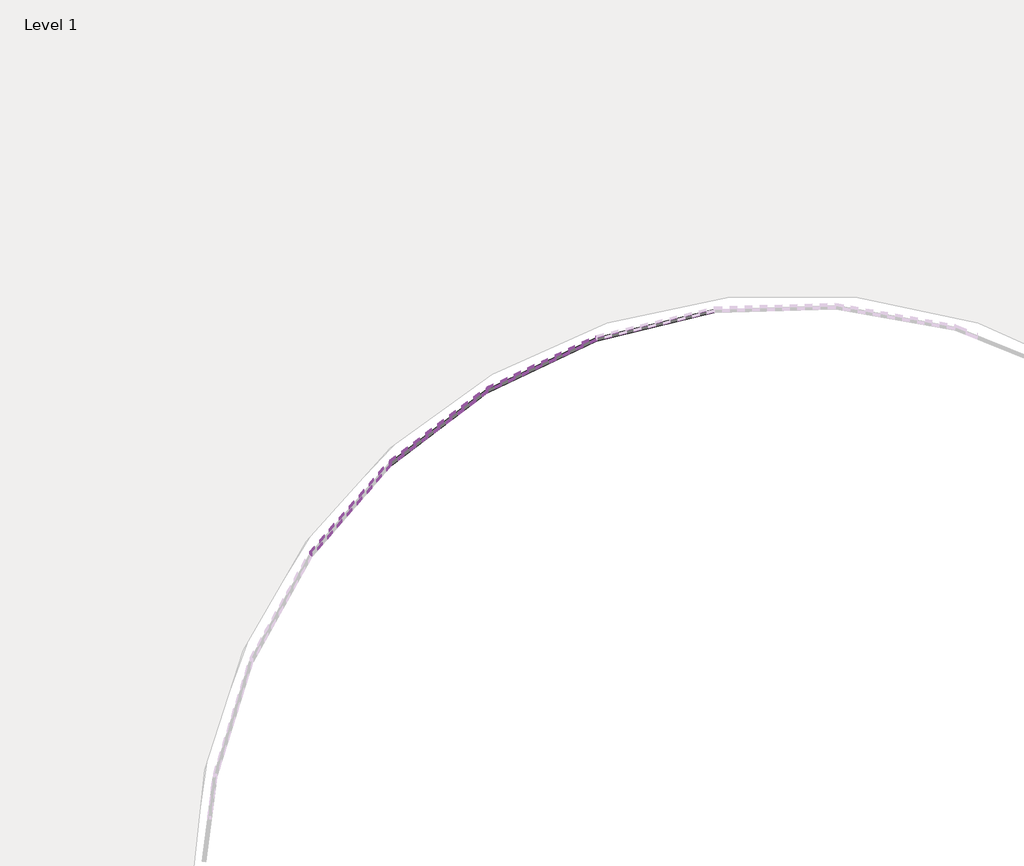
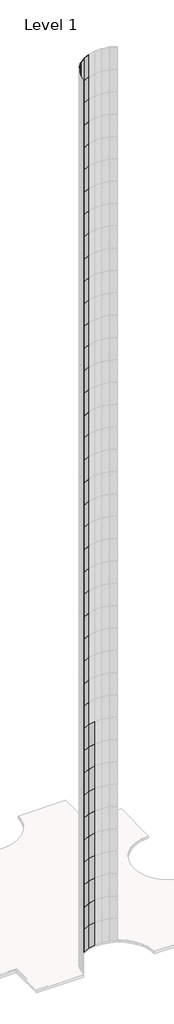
# One storey, part 7 of 19: 129 plates.
"""IFC4 building model written with IfcOpenShell, lengths in millimetres."""

from ifc_helpers import new_model, si_unit, origin, place, context, project, spatial, transform, mapped, element, save
from components import system_panel_glazed_d77d1ebf

model = new_model("IFC4")

# Units and contexts
model_context = context("Model", 3, world=origin())
ifc_project = project(units=[si_unit("LENGTHUNIT", "METRE", prefix="MILLI")], contexts=[model_context])

# Site, building, storey
site = spatial("IfcSite", under=ifc_project)
building = spatial("IfcBuilding", under=site)
storey = spatial("IfcBuildingStorey", under=building, Name="Level 1", Elevation=0.0)

# Plates
placement = place(None, origin())
system_panel_glazed_shape = system_panel_glazed_d77d1ebf(model_context)
element("IfcPlate", 1, ObjectType="System Panel : Glazed", at=placement, inside=storey, context=model_context, shape_type="MappedRepresentation", body=[
    mapped(system_panel_glazed_shape, transform((2482.9364739, -17126.4039912, 0.0), x_axis=(-0.9722724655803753, -0.23385091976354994, 0.0), y_axis=(0.23385091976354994, -0.9722724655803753, 0.0), z_axis=(0.0, 0.0, 1.0))),
])
element("IfcPlate", 2, ObjectType="System Panel : Glazed", at=placement, inside=storey, context=model_context, shape_type="MappedRepresentation", body=[
    mapped(system_panel_glazed_shape, transform((1625.145029, -17428.8737158, 0.0), x_axis=(-0.9039117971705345, -0.4277189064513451, 0.0), y_axis=(0.4277189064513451, -0.9039117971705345, 0.0), z_axis=(0.0, 0.0, 1.0))),
])
element("IfcPlate", 3, ObjectType="System Panel : Glazed", at=placement, inside=storey, context=model_context, shape_type="MappedRepresentation", body=[
    mapped(system_panel_glazed_shape, transform((847.326469, -17900.3526496, 0.0), x_axis=(-0.7973536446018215, -0.6035123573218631, 0.0), y_axis=(0.6035123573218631, -0.7973536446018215, 0.0), z_axis=(0.0, 0.0, 1.0))),
])
element("IfcPlate", 4, ObjectType="System Panel : Glazed", at=placement, inside=storey, context=model_context, shape_type="MappedRepresentation", body=[
    mapped(system_panel_glazed_shape, transform((2482.9364739, -17126.4039912, 3048.0), x_axis=(-0.9722724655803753, -0.23385091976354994, 0.0), y_axis=(0.23385091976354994, -0.9722724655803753, 0.0), z_axis=(0.0, 0.0, 1.0))),
])
element("IfcPlate", 5, ObjectType="System Panel : Glazed", at=placement, inside=storey, context=model_context, shape_type="MappedRepresentation", body=[
    mapped(system_panel_glazed_shape, transform((1625.145029, -17428.8737158, 3048.0), x_axis=(-0.9039117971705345, -0.4277189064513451, 0.0), y_axis=(0.4277189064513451, -0.9039117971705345, 0.0), z_axis=(0.0, 0.0, 1.0))),
])
element("IfcPlate", 6, ObjectType="System Panel : Glazed", at=placement, inside=storey, context=model_context, shape_type="MappedRepresentation", body=[
    mapped(system_panel_glazed_shape, transform((847.326469, -17900.3526496, 3048.0), x_axis=(-0.7973536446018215, -0.6035123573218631, 0.0), y_axis=(0.6035123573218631, -0.7973536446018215, 0.0), z_axis=(0.0, 0.0, 1.0))),
])
element("IfcPlate", 7, ObjectType="System Panel : Glazed", at=placement, inside=storey, context=model_context, shape_type="MappedRepresentation", body=[
    mapped(system_panel_glazed_shape, transform((182.349833, -18520.9170466, 3048.0), x_axis=(-0.6571009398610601, -0.7538025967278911, 0.0), y_axis=(0.7538025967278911, -0.6571009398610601, 0.0), z_axis=(0.0, 0.0, 1.0))),
])
element("IfcPlate", 8, ObjectType="System Panel : Glazed", at=placement, inside=storey, context=model_context, shape_type="MappedRepresentation", body=[
    mapped(system_panel_glazed_shape, transform((2482.9364739, -17126.4039912, 6096.0), x_axis=(-0.9722724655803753, -0.23385091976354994, 0.0), y_axis=(0.23385091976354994, -0.9722724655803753, 0.0), z_axis=(0.0, 0.0, 1.0))),
])
element("IfcPlate", 9, ObjectType="System Panel : Glazed", at=placement, inside=storey, context=model_context, shape_type="MappedRepresentation", body=[
    mapped(system_panel_glazed_shape, transform((1625.145029, -17428.8737158, 6096.0), x_axis=(-0.9039117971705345, -0.4277189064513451, 0.0), y_axis=(0.4277189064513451, -0.9039117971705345, 0.0), z_axis=(0.0, 0.0, 1.0))),
])
element("IfcPlate", 10, ObjectType="System Panel : Glazed", at=placement, inside=storey, context=model_context, shape_type="MappedRepresentation", body=[
    mapped(system_panel_glazed_shape, transform((847.326469, -17900.3526496, 6096.0), x_axis=(-0.7973536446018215, -0.6035123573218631, 0.0), y_axis=(0.6035123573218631, -0.7973536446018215, 0.0), z_axis=(0.0, 0.0, 1.0))),
])
element("IfcPlate", 11, ObjectType="System Panel : Glazed", at=placement, inside=storey, context=model_context, shape_type="MappedRepresentation", body=[
    mapped(system_panel_glazed_shape, transform((182.349833, -18520.9170466, 6096.0), x_axis=(-0.6571009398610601, -0.7538025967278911, 0.0), y_axis=(0.7538025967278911, -0.6571009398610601, 0.0), z_axis=(0.0, 0.0, 1.0))),
])
element("IfcPlate", 12, ObjectType="System Panel : Glazed", at=placement, inside=storey, context=model_context, shape_type="MappedRepresentation", body=[
    mapped(system_panel_glazed_shape, transform((2482.9364739, -17126.4039912, 9144.0), x_axis=(-0.9722724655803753, -0.23385091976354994, 0.0), y_axis=(0.23385091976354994, -0.9722724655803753, 0.0), z_axis=(0.0, 0.0, 1.0))),
])
element("IfcPlate", 13, ObjectType="System Panel : Glazed", at=placement, inside=storey, context=model_context, shape_type="MappedRepresentation", body=[
    mapped(system_panel_glazed_shape, transform((1625.145029, -17428.8737158, 9144.0), x_axis=(-0.9039117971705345, -0.4277189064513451, 0.0), y_axis=(0.4277189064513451, -0.9039117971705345, 0.0), z_axis=(0.0, 0.0, 1.0))),
])
element("IfcPlate", 14, ObjectType="System Panel : Glazed", at=placement, inside=storey, context=model_context, shape_type="MappedRepresentation", body=[
    mapped(system_panel_glazed_shape, transform((847.326469, -17900.3526496, 9144.0), x_axis=(-0.7973536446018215, -0.6035123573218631, 0.0), y_axis=(0.6035123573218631, -0.7973536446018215, 0.0), z_axis=(0.0, 0.0, 1.0))),
])
element("IfcPlate", 15, ObjectType="System Panel : Glazed", at=placement, inside=storey, context=model_context, shape_type="MappedRepresentation", body=[
    mapped(system_panel_glazed_shape, transform((182.349833, -18520.9170466, 9144.0), x_axis=(-0.6571009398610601, -0.7538025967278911, 0.0), y_axis=(0.7538025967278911, -0.6571009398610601, 0.0), z_axis=(0.0, 0.0, 1.0))),
])
element("IfcPlate", 16, ObjectType="System Panel : Glazed", at=placement, inside=storey, context=model_context, shape_type="MappedRepresentation", body=[
    mapped(system_panel_glazed_shape, transform((2482.9364739, -17126.4039912, 12192.0), x_axis=(-0.9722724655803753, -0.23385091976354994, 0.0), y_axis=(0.23385091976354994, -0.9722724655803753, 0.0), z_axis=(0.0, 0.0, 1.0))),
])
element("IfcPlate", 17, ObjectType="System Panel : Glazed", at=placement, inside=storey, context=model_context, shape_type="MappedRepresentation", body=[
    mapped(system_panel_glazed_shape, transform((1625.145029, -17428.8737158, 12192.0), x_axis=(-0.9039117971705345, -0.4277189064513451, 0.0), y_axis=(0.4277189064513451, -0.9039117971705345, 0.0), z_axis=(0.0, 0.0, 1.0))),
])
element("IfcPlate", 18, ObjectType="System Panel : Glazed", at=placement, inside=storey, context=model_context, shape_type="MappedRepresentation", body=[
    mapped(system_panel_glazed_shape, transform((847.326469, -17900.3526496, 12192.0), x_axis=(-0.7973536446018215, -0.6035123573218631, 0.0), y_axis=(0.6035123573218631, -0.7973536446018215, 0.0), z_axis=(0.0, 0.0, 1.0))),
])
element("IfcPlate", 19, ObjectType="System Panel : Glazed", at=placement, inside=storey, context=model_context, shape_type="MappedRepresentation", body=[
    mapped(system_panel_glazed_shape, transform((182.349833, -18520.9170466, 12192.0), x_axis=(-0.6571009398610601, -0.7538025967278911, 0.0), y_axis=(0.7538025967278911, -0.6571009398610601, 0.0), z_axis=(0.0, 0.0, 1.0))),
])
element("IfcPlate", 20, ObjectType="System Panel : Glazed", at=placement, inside=storey, context=model_context, shape_type="MappedRepresentation", body=[
    mapped(system_panel_glazed_shape, transform((2482.9364739, -17126.4039912, 15240.0), x_axis=(-0.9722724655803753, -0.23385091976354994, 0.0), y_axis=(0.23385091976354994, -0.9722724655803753, 0.0), z_axis=(0.0, 0.0, 1.0))),
])
element("IfcPlate", 21, ObjectType="System Panel : Glazed", at=placement, inside=storey, context=model_context, shape_type="MappedRepresentation", body=[
    mapped(system_panel_glazed_shape, transform((1625.145029, -17428.8737158, 15240.0), x_axis=(-0.9039117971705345, -0.4277189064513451, 0.0), y_axis=(0.4277189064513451, -0.9039117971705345, 0.0), z_axis=(0.0, 0.0, 1.0))),
])
element("IfcPlate", 22, ObjectType="System Panel : Glazed", at=placement, inside=storey, context=model_context, shape_type="MappedRepresentation", body=[
    mapped(system_panel_glazed_shape, transform((847.326469, -17900.3526496, 15240.0), x_axis=(-0.7973536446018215, -0.6035123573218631, 0.0), y_axis=(0.6035123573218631, -0.7973536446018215, 0.0), z_axis=(0.0, 0.0, 1.0))),
])
element("IfcPlate", 23, ObjectType="System Panel : Glazed", at=placement, inside=storey, context=model_context, shape_type="MappedRepresentation", body=[
    mapped(system_panel_glazed_shape, transform((182.349833, -18520.9170466, 15240.0), x_axis=(-0.6571009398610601, -0.7538025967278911, 0.0), y_axis=(0.7538025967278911, -0.6571009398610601, 0.0), z_axis=(0.0, 0.0, 1.0))),
])
element("IfcPlate", 24, ObjectType="System Panel : Glazed", at=placement, inside=storey, context=model_context, shape_type="MappedRepresentation", body=[
    mapped(system_panel_glazed_shape, transform((2482.9364739, -17126.4039912, 18288.0), x_axis=(-0.9722724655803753, -0.23385091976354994, 0.0), y_axis=(0.23385091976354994, -0.9722724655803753, 0.0), z_axis=(0.0, 0.0, 1.0))),
])
element("IfcPlate", 25, ObjectType="System Panel : Glazed", at=placement, inside=storey, context=model_context, shape_type="MappedRepresentation", body=[
    mapped(system_panel_glazed_shape, transform((1625.145029, -17428.8737158, 18288.0), x_axis=(-0.9039117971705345, -0.4277189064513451, 0.0), y_axis=(0.4277189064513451, -0.9039117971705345, 0.0), z_axis=(0.0, 0.0, 1.0))),
])
element("IfcPlate", 26, ObjectType="System Panel : Glazed", at=placement, inside=storey, context=model_context, shape_type="MappedRepresentation", body=[
    mapped(system_panel_glazed_shape, transform((847.326469, -17900.3526496, 18288.0), x_axis=(-0.7973536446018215, -0.6035123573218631, 0.0), y_axis=(0.6035123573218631, -0.7973536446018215, 0.0), z_axis=(0.0, 0.0, 1.0))),
])
element("IfcPlate", 27, ObjectType="System Panel : Glazed", at=placement, inside=storey, context=model_context, shape_type="MappedRepresentation", body=[
    mapped(system_panel_glazed_shape, transform((182.349833, -18520.9170466, 18288.0), x_axis=(-0.65710093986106, -0.7538025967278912, 0.0), y_axis=(0.7538025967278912, -0.65710093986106, 0.0), z_axis=(0.0, 0.0, 1.0))),
])
element("IfcPlate", 28, ObjectType="System Panel : Glazed", at=placement, inside=storey, context=model_context, shape_type="MappedRepresentation", body=[
    mapped(system_panel_glazed_shape, transform((2482.9364739, -17126.4039912, 21336.0), x_axis=(-0.9722724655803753, -0.23385091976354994, 0.0), y_axis=(0.23385091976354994, -0.9722724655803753, 0.0), z_axis=(0.0, 0.0, 1.0))),
])
element("IfcPlate", 29, ObjectType="System Panel : Glazed", at=placement, inside=storey, context=model_context, shape_type="MappedRepresentation", body=[
    mapped(system_panel_glazed_shape, transform((1625.145029, -17428.8737158, 21336.0), x_axis=(-0.9039117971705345, -0.4277189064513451, 0.0), y_axis=(0.4277189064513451, -0.9039117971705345, 0.0), z_axis=(0.0, 0.0, 1.0))),
])
element("IfcPlate", 30, ObjectType="System Panel : Glazed", at=placement, inside=storey, context=model_context, shape_type="MappedRepresentation", body=[
    mapped(system_panel_glazed_shape, transform((847.326469, -17900.3526496, 21336.0), x_axis=(-0.7973536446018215, -0.6035123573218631, 0.0), y_axis=(0.6035123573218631, -0.7973536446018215, 0.0), z_axis=(0.0, 0.0, 1.0))),
])
element("IfcPlate", 31, ObjectType="System Panel : Glazed", at=placement, inside=storey, context=model_context, shape_type="MappedRepresentation", body=[
    mapped(system_panel_glazed_shape, transform((182.349833, -18520.9170466, 21336.0), x_axis=(-0.6571009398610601, -0.7538025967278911, 0.0), y_axis=(0.7538025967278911, -0.6571009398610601, 0.0), z_axis=(0.0, 0.0, 1.0))),
])
element("IfcPlate", 32, ObjectType="System Panel : Glazed", at=placement, inside=storey, context=model_context, shape_type="MappedRepresentation", body=[
    mapped(system_panel_glazed_shape, transform((2482.9364739, -17126.4039912, 24384.0), x_axis=(-0.9722724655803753, -0.23385091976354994, 0.0), y_axis=(0.23385091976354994, -0.9722724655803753, 0.0), z_axis=(0.0, 0.0, 1.0))),
])
element("IfcPlate", 33, ObjectType="System Panel : Glazed", at=placement, inside=storey, context=model_context, shape_type="MappedRepresentation", body=[
    mapped(system_panel_glazed_shape, transform((1625.145029, -17428.8737158, 24384.0), x_axis=(-0.9039117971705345, -0.4277189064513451, 0.0), y_axis=(0.4277189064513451, -0.9039117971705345, 0.0), z_axis=(0.0, 0.0, 1.0))),
])
element("IfcPlate", 34, ObjectType="System Panel : Glazed", at=placement, inside=storey, context=model_context, shape_type="MappedRepresentation", body=[
    mapped(system_panel_glazed_shape, transform((847.326469, -17900.3526496, 24384.0), x_axis=(-0.7973536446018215, -0.6035123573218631, 0.0), y_axis=(0.6035123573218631, -0.7973536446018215, 0.0), z_axis=(0.0, 0.0, 1.0))),
])
element("IfcPlate", 35, ObjectType="System Panel : Glazed", at=placement, inside=storey, context=model_context, shape_type="MappedRepresentation", body=[
    mapped(system_panel_glazed_shape, transform((182.349833, -18520.9170466, 24384.0), x_axis=(-0.6571009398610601, -0.7538025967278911, 0.0), y_axis=(0.7538025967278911, -0.6571009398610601, 0.0), z_axis=(0.0, 0.0, 1.0))),
])
element("IfcPlate", 36, ObjectType="System Panel : Glazed", at=placement, inside=storey, context=model_context, shape_type="MappedRepresentation", body=[
    mapped(system_panel_glazed_shape, transform((2482.9364739, -17126.4039912, 27432.0), x_axis=(-0.9722724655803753, -0.23385091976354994, 0.0), y_axis=(0.23385091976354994, -0.9722724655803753, 0.0), z_axis=(0.0, 0.0, 1.0))),
])
element("IfcPlate", 37, ObjectType="System Panel : Glazed", at=placement, inside=storey, context=model_context, shape_type="MappedRepresentation", body=[
    mapped(system_panel_glazed_shape, transform((1625.145029, -17428.8737158, 27432.0), x_axis=(-0.9039117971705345, -0.4277189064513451, 0.0), y_axis=(0.4277189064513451, -0.9039117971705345, 0.0), z_axis=(0.0, 0.0, 1.0))),
])
element("IfcPlate", 38, ObjectType="System Panel : Glazed", at=placement, inside=storey, context=model_context, shape_type="MappedRepresentation", body=[
    mapped(system_panel_glazed_shape, transform((847.326469, -17900.3526496, 27432.0), x_axis=(-0.7973536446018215, -0.6035123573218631, 0.0), y_axis=(0.6035123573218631, -0.7973536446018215, 0.0), z_axis=(0.0, 0.0, 1.0))),
])
element("IfcPlate", 39, ObjectType="System Panel : Glazed", at=placement, inside=storey, context=model_context, shape_type="MappedRepresentation", body=[
    mapped(system_panel_glazed_shape, transform((182.349833, -18520.9170466, 27432.0), x_axis=(-0.6571009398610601, -0.7538025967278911, 0.0), y_axis=(0.7538025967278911, -0.6571009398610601, 0.0), z_axis=(0.0, 0.0, 1.0))),
])
element("IfcPlate", 40, ObjectType="System Panel : Glazed", at=placement, inside=storey, context=model_context, shape_type="MappedRepresentation", body=[
    mapped(system_panel_glazed_shape, transform((1625.145029, -17428.8737158, 30480.0), x_axis=(-0.9039117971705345, -0.4277189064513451, 0.0), y_axis=(0.4277189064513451, -0.9039117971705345, 0.0), z_axis=(0.0, 0.0, 1.0))),
])
element("IfcPlate", 41, ObjectType="System Panel : Glazed", at=placement, inside=storey, context=model_context, shape_type="MappedRepresentation", body=[
    mapped(system_panel_glazed_shape, transform((847.326469, -17900.3526496, 30480.0), x_axis=(-0.7973536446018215, -0.6035123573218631, 0.0), y_axis=(0.6035123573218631, -0.7973536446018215, 0.0), z_axis=(0.0, 0.0, 1.0))),
])
element("IfcPlate", 42, ObjectType="System Panel : Glazed", at=placement, inside=storey, context=model_context, shape_type="MappedRepresentation", body=[
    mapped(system_panel_glazed_shape, transform((182.349833, -18520.9170466, 30480.0), x_axis=(-0.6571009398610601, -0.7538025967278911, 0.0), y_axis=(0.7538025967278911, -0.6571009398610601, 0.0), z_axis=(0.0, 0.0, 1.0))),
])
element("IfcPlate", 43, ObjectType="System Panel : Glazed", at=placement, inside=storey, context=model_context, shape_type="MappedRepresentation", body=[
    mapped(system_panel_glazed_shape, transform((1625.145029, -17428.8737158, 33528.0), x_axis=(-0.9039117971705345, -0.4277189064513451, 0.0), y_axis=(0.4277189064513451, -0.9039117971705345, 0.0), z_axis=(0.0, 0.0, 1.0))),
])
element("IfcPlate", 44, ObjectType="System Panel : Glazed", at=placement, inside=storey, context=model_context, shape_type="MappedRepresentation", body=[
    mapped(system_panel_glazed_shape, transform((847.326469, -17900.3526496, 33528.0), x_axis=(-0.7973536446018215, -0.6035123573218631, 0.0), y_axis=(0.6035123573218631, -0.7973536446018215, 0.0), z_axis=(0.0, 0.0, 1.0))),
])
element("IfcPlate", 45, ObjectType="System Panel : Glazed", at=placement, inside=storey, context=model_context, shape_type="MappedRepresentation", body=[
    mapped(system_panel_glazed_shape, transform((182.349833, -18520.9170466, 33528.0), x_axis=(-0.6571009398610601, -0.7538025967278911, 0.0), y_axis=(0.7538025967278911, -0.6571009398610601, 0.0), z_axis=(0.0, 0.0, 1.0))),
])
element("IfcPlate", 46, ObjectType="System Panel : Glazed", at=placement, inside=storey, context=model_context, shape_type="MappedRepresentation", body=[
    mapped(system_panel_glazed_shape, transform((1625.145029, -17428.8737158, 36576.0), x_axis=(-0.9039117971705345, -0.4277189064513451, 0.0), y_axis=(0.4277189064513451, -0.9039117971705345, 0.0), z_axis=(0.0, 0.0, 1.0))),
])
element("IfcPlate", 47, ObjectType="System Panel : Glazed", at=placement, inside=storey, context=model_context, shape_type="MappedRepresentation", body=[
    mapped(system_panel_glazed_shape, transform((847.326469, -17900.3526496, 36576.0), x_axis=(-0.7973536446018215, -0.6035123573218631, 0.0), y_axis=(0.6035123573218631, -0.7973536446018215, 0.0), z_axis=(0.0, 0.0, 1.0))),
])
element("IfcPlate", 48, ObjectType="System Panel : Glazed", at=placement, inside=storey, context=model_context, shape_type="MappedRepresentation", body=[
    mapped(system_panel_glazed_shape, transform((182.349833, -18520.9170466, 36576.0), x_axis=(-0.6571009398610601, -0.7538025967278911, 0.0), y_axis=(0.7538025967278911, -0.6571009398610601, 0.0), z_axis=(0.0, 0.0, 1.0))),
])
element("IfcPlate", 49, ObjectType="System Panel : Glazed", at=placement, inside=storey, context=model_context, shape_type="MappedRepresentation", body=[
    mapped(system_panel_glazed_shape, transform((1625.145029, -17428.8737158, 39624.0), x_axis=(-0.9039117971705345, -0.4277189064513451, 0.0), y_axis=(0.4277189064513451, -0.9039117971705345, 0.0), z_axis=(0.0, 0.0, 1.0))),
])
element("IfcPlate", 50, ObjectType="System Panel : Glazed", at=placement, inside=storey, context=model_context, shape_type="MappedRepresentation", body=[
    mapped(system_panel_glazed_shape, transform((847.326469, -17900.3526496, 39624.0), x_axis=(-0.7973536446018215, -0.6035123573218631, 0.0), y_axis=(0.6035123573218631, -0.7973536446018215, 0.0), z_axis=(0.0, 0.0, 1.0))),
])
element("IfcPlate", 51, ObjectType="System Panel : Glazed", at=placement, inside=storey, context=model_context, shape_type="MappedRepresentation", body=[
    mapped(system_panel_glazed_shape, transform((182.349833, -18520.9170466, 39624.0), x_axis=(-0.6571009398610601, -0.7538025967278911, 0.0), y_axis=(0.7538025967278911, -0.6571009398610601, 0.0), z_axis=(0.0, 0.0, 1.0))),
])
element("IfcPlate", 52, ObjectType="System Panel : Glazed", at=placement, inside=storey, context=model_context, shape_type="MappedRepresentation", body=[
    mapped(system_panel_glazed_shape, transform((1625.145029, -17428.8737158, 42672.0), x_axis=(-0.9039117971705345, -0.4277189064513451, 0.0), y_axis=(0.4277189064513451, -0.9039117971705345, 0.0), z_axis=(0.0, 0.0, 1.0))),
])
element("IfcPlate", 53, ObjectType="System Panel : Glazed", at=placement, inside=storey, context=model_context, shape_type="MappedRepresentation", body=[
    mapped(system_panel_glazed_shape, transform((847.326469, -17900.3526496, 42672.0), x_axis=(-0.7973536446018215, -0.6035123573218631, 0.0), y_axis=(0.6035123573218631, -0.7973536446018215, 0.0), z_axis=(0.0, 0.0, 1.0))),
])
element("IfcPlate", 54, ObjectType="System Panel : Glazed", at=placement, inside=storey, context=model_context, shape_type="MappedRepresentation", body=[
    mapped(system_panel_glazed_shape, transform((182.349833, -18520.9170466, 42672.0), x_axis=(-0.6571009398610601, -0.7538025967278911, 0.0), y_axis=(0.7538025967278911, -0.6571009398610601, 0.0), z_axis=(0.0, 0.0, 1.0))),
])
element("IfcPlate", 55, ObjectType="System Panel : Glazed", at=placement, inside=storey, context=model_context, shape_type="MappedRepresentation", body=[
    mapped(system_panel_glazed_shape, transform((1625.145029, -17428.8737158, 45720.0), x_axis=(-0.9039117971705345, -0.4277189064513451, 0.0), y_axis=(0.4277189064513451, -0.9039117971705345, 0.0), z_axis=(0.0, 0.0, 1.0))),
])
element("IfcPlate", 56, ObjectType="System Panel : Glazed", at=placement, inside=storey, context=model_context, shape_type="MappedRepresentation", body=[
    mapped(system_panel_glazed_shape, transform((847.326469, -17900.3526496, 45720.0), x_axis=(-0.7973536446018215, -0.6035123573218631, 0.0), y_axis=(0.6035123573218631, -0.7973536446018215, 0.0), z_axis=(0.0, 0.0, 1.0))),
])
element("IfcPlate", 57, ObjectType="System Panel : Glazed", at=placement, inside=storey, context=model_context, shape_type="MappedRepresentation", body=[
    mapped(system_panel_glazed_shape, transform((182.349833, -18520.9170466, 45720.0), x_axis=(-0.6571009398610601, -0.7538025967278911, 0.0), y_axis=(0.7538025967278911, -0.6571009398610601, 0.0), z_axis=(0.0, 0.0, 1.0))),
])
element("IfcPlate", 58, ObjectType="System Panel : Glazed", at=placement, inside=storey, context=model_context, shape_type="MappedRepresentation", body=[
    mapped(system_panel_glazed_shape, transform((1625.145029, -17428.8737158, 48768.0), x_axis=(-0.9039117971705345, -0.4277189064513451, 0.0), y_axis=(0.4277189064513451, -0.9039117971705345, 0.0), z_axis=(0.0, 0.0, 1.0))),
])
element("IfcPlate", 59, ObjectType="System Panel : Glazed", at=placement, inside=storey, context=model_context, shape_type="MappedRepresentation", body=[
    mapped(system_panel_glazed_shape, transform((847.326469, -17900.3526496, 48768.0), x_axis=(-0.7973536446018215, -0.6035123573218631, 0.0), y_axis=(0.6035123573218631, -0.7973536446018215, 0.0), z_axis=(0.0, 0.0, 1.0))),
])
element("IfcPlate", 60, ObjectType="System Panel : Glazed", at=placement, inside=storey, context=model_context, shape_type="MappedRepresentation", body=[
    mapped(system_panel_glazed_shape, transform((182.349833, -18520.9170466, 48768.0), x_axis=(-0.6571009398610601, -0.7538025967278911, 0.0), y_axis=(0.7538025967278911, -0.6571009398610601, 0.0), z_axis=(0.0, 0.0, 1.0))),
])
element("IfcPlate", 61, ObjectType="System Panel : Glazed", at=placement, inside=storey, context=model_context, shape_type="MappedRepresentation", body=[
    mapped(system_panel_glazed_shape, transform((1625.145029, -17428.8737158, 51816.0), x_axis=(-0.9039117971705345, -0.4277189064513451, 0.0), y_axis=(0.4277189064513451, -0.9039117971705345, 0.0), z_axis=(0.0, 0.0, 1.0))),
])
element("IfcPlate", 62, ObjectType="System Panel : Glazed", at=placement, inside=storey, context=model_context, shape_type="MappedRepresentation", body=[
    mapped(system_panel_glazed_shape, transform((847.326469, -17900.3526496, 51816.0), x_axis=(-0.7973536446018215, -0.6035123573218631, 0.0), y_axis=(0.6035123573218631, -0.7973536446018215, 0.0), z_axis=(0.0, 0.0, 1.0))),
])
element("IfcPlate", 63, ObjectType="System Panel : Glazed", at=placement, inside=storey, context=model_context, shape_type="MappedRepresentation", body=[
    mapped(system_panel_glazed_shape, transform((182.349833, -18520.9170466, 51816.0), x_axis=(-0.6571009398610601, -0.7538025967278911, 0.0), y_axis=(0.7538025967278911, -0.6571009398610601, 0.0), z_axis=(0.0, 0.0, 1.0))),
])
element("IfcPlate", 64, ObjectType="System Panel : Glazed", at=placement, inside=storey, context=model_context, shape_type="MappedRepresentation", body=[
    mapped(system_panel_glazed_shape, transform((1625.145029, -17428.8737158, 54864.0), x_axis=(-0.9039117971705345, -0.4277189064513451, 0.0), y_axis=(0.4277189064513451, -0.9039117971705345, 0.0), z_axis=(0.0, 0.0, 1.0))),
])
element("IfcPlate", 65, ObjectType="System Panel : Glazed", at=placement, inside=storey, context=model_context, shape_type="MappedRepresentation", body=[
    mapped(system_panel_glazed_shape, transform((847.326469, -17900.3526496, 54864.0), x_axis=(-0.7973536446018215, -0.6035123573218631, 0.0), y_axis=(0.6035123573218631, -0.7973536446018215, 0.0), z_axis=(0.0, 0.0, 1.0))),
])
element("IfcPlate", 66, ObjectType="System Panel : Glazed", at=placement, inside=storey, context=model_context, shape_type="MappedRepresentation", body=[
    mapped(system_panel_glazed_shape, transform((182.349833, -18520.9170466, 54864.0), x_axis=(-0.6571009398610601, -0.7538025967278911, 0.0), y_axis=(0.7538025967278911, -0.6571009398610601, 0.0), z_axis=(0.0, 0.0, 1.0))),
])
element("IfcPlate", 67, ObjectType="System Panel : Glazed", at=placement, inside=storey, context=model_context, shape_type="MappedRepresentation", body=[
    mapped(system_panel_glazed_shape, transform((1625.145029, -17428.8737158, 57912.0), x_axis=(-0.9039117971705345, -0.4277189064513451, 0.0), y_axis=(0.4277189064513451, -0.9039117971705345, 0.0), z_axis=(0.0, 0.0, 1.0))),
])
element("IfcPlate", 68, ObjectType="System Panel : Glazed", at=placement, inside=storey, context=model_context, shape_type="MappedRepresentation", body=[
    mapped(system_panel_glazed_shape, transform((847.326469, -17900.3526496, 57912.0), x_axis=(-0.7973536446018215, -0.6035123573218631, 0.0), y_axis=(0.6035123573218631, -0.7973536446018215, 0.0), z_axis=(0.0, 0.0, 1.0))),
])
element("IfcPlate", 69, ObjectType="System Panel : Glazed", at=placement, inside=storey, context=model_context, shape_type="MappedRepresentation", body=[
    mapped(system_panel_glazed_shape, transform((182.349833, -18520.9170466, 57912.0), x_axis=(-0.6571009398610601, -0.7538025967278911, 0.0), y_axis=(0.7538025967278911, -0.6571009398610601, 0.0), z_axis=(0.0, 0.0, 1.0))),
])
element("IfcPlate", 70, ObjectType="System Panel : Glazed", at=placement, inside=storey, context=model_context, shape_type="MappedRepresentation", body=[
    mapped(system_panel_glazed_shape, transform((1625.145029, -17428.8737158, 60960.0), x_axis=(-0.9039117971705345, -0.4277189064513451, 0.0), y_axis=(0.4277189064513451, -0.9039117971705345, 0.0), z_axis=(0.0, 0.0, 1.0))),
])
element("IfcPlate", 71, ObjectType="System Panel : Glazed", at=placement, inside=storey, context=model_context, shape_type="MappedRepresentation", body=[
    mapped(system_panel_glazed_shape, transform((847.326469, -17900.3526496, 60960.0), x_axis=(-0.7973536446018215, -0.6035123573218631, 0.0), y_axis=(0.6035123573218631, -0.7973536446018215, 0.0), z_axis=(0.0, 0.0, 1.0))),
])
element("IfcPlate", 72, ObjectType="System Panel : Glazed", at=placement, inside=storey, context=model_context, shape_type="MappedRepresentation", body=[
    mapped(system_panel_glazed_shape, transform((182.349833, -18520.9170466, 60960.0), x_axis=(-0.6571009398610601, -0.7538025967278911, 0.0), y_axis=(0.7538025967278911, -0.6571009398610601, 0.0), z_axis=(0.0, 0.0, 1.0))),
])
element("IfcPlate", 73, ObjectType="System Panel : Glazed", at=placement, inside=storey, context=model_context, shape_type="MappedRepresentation", body=[
    mapped(system_panel_glazed_shape, transform((1625.145029, -17428.8737158, 64008.0), x_axis=(-0.9039117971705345, -0.4277189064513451, 0.0), y_axis=(0.4277189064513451, -0.9039117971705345, 0.0), z_axis=(0.0, 0.0, 1.0))),
])
element("IfcPlate", 74, ObjectType="System Panel : Glazed", at=placement, inside=storey, context=model_context, shape_type="MappedRepresentation", body=[
    mapped(system_panel_glazed_shape, transform((847.326469, -17900.3526496, 64008.0), x_axis=(-0.7973536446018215, -0.6035123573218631, 0.0), y_axis=(0.6035123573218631, -0.7973536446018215, 0.0), z_axis=(0.0, 0.0, 1.0))),
])
element("IfcPlate", 75, ObjectType="System Panel : Glazed", at=placement, inside=storey, context=model_context, shape_type="MappedRepresentation", body=[
    mapped(system_panel_glazed_shape, transform((182.349833, -18520.9170466, 64008.0), x_axis=(-0.6571009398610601, -0.7538025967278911, 0.0), y_axis=(0.7538025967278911, -0.6571009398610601, 0.0), z_axis=(0.0, 0.0, 1.0))),
])
element("IfcPlate", 76, ObjectType="System Panel : Glazed", at=placement, inside=storey, context=model_context, shape_type="MappedRepresentation", body=[
    mapped(system_panel_glazed_shape, transform((1625.145029, -17428.8737158, 67056.0), x_axis=(-0.9039117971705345, -0.4277189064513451, 0.0), y_axis=(0.4277189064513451, -0.9039117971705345, 0.0), z_axis=(0.0, 0.0, 1.0))),
])
element("IfcPlate", 77, ObjectType="System Panel : Glazed", at=placement, inside=storey, context=model_context, shape_type="MappedRepresentation", body=[
    mapped(system_panel_glazed_shape, transform((847.326469, -17900.3526496, 67056.0), x_axis=(-0.7973536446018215, -0.6035123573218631, 0.0), y_axis=(0.6035123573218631, -0.7973536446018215, 0.0), z_axis=(0.0, 0.0, 1.0))),
])
element("IfcPlate", 78, ObjectType="System Panel : Glazed", at=placement, inside=storey, context=model_context, shape_type="MappedRepresentation", body=[
    mapped(system_panel_glazed_shape, transform((182.349833, -18520.9170466, 67056.0), x_axis=(-0.6571009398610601, -0.7538025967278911, 0.0), y_axis=(0.7538025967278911, -0.6571009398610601, 0.0), z_axis=(0.0, 0.0, 1.0))),
])
element("IfcPlate", 79, ObjectType="System Panel : Glazed", at=placement, inside=storey, context=model_context, shape_type="MappedRepresentation", body=[
    mapped(system_panel_glazed_shape, transform((1625.145029, -17428.8737158, 70104.0), x_axis=(-0.9039117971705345, -0.4277189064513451, 0.0), y_axis=(0.4277189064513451, -0.9039117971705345, 0.0), z_axis=(0.0, 0.0, 1.0))),
])
element("IfcPlate", 80, ObjectType="System Panel : Glazed", at=placement, inside=storey, context=model_context, shape_type="MappedRepresentation", body=[
    mapped(system_panel_glazed_shape, transform((847.326469, -17900.3526496, 70104.0), x_axis=(-0.7973536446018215, -0.6035123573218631, 0.0), y_axis=(0.6035123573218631, -0.7973536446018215, 0.0), z_axis=(0.0, 0.0, 1.0))),
])
element("IfcPlate", 81, ObjectType="System Panel : Glazed", at=placement, inside=storey, context=model_context, shape_type="MappedRepresentation", body=[
    mapped(system_panel_glazed_shape, transform((182.349833, -18520.9170466, 70104.0), x_axis=(-0.6571009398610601, -0.7538025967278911, 0.0), y_axis=(0.7538025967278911, -0.6571009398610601, 0.0), z_axis=(0.0, 0.0, 1.0))),
])
element("IfcPlate", 82, ObjectType="System Panel : Glazed", at=placement, inside=storey, context=model_context, shape_type="MappedRepresentation", body=[
    mapped(system_panel_glazed_shape, transform((1625.145029, -17428.8737158, 73152.0), x_axis=(-0.9039117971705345, -0.4277189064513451, 0.0), y_axis=(0.4277189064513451, -0.9039117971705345, 0.0), z_axis=(0.0, 0.0, 1.0))),
])
element("IfcPlate", 83, ObjectType="System Panel : Glazed", at=placement, inside=storey, context=model_context, shape_type="MappedRepresentation", body=[
    mapped(system_panel_glazed_shape, transform((847.326469, -17900.3526496, 73152.0), x_axis=(-0.7973536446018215, -0.6035123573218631, 0.0), y_axis=(0.6035123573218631, -0.7973536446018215, 0.0), z_axis=(0.0, 0.0, 1.0))),
])
element("IfcPlate", 84, ObjectType="System Panel : Glazed", at=placement, inside=storey, context=model_context, shape_type="MappedRepresentation", body=[
    mapped(system_panel_glazed_shape, transform((182.349833, -18520.9170466, 73152.0), x_axis=(-0.6571009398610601, -0.7538025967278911, 0.0), y_axis=(0.7538025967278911, -0.6571009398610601, 0.0), z_axis=(0.0, 0.0, 1.0))),
])
element("IfcPlate", 85, ObjectType="System Panel : Glazed", at=placement, inside=storey, context=model_context, shape_type="MappedRepresentation", body=[
    mapped(system_panel_glazed_shape, transform((1625.145029, -17428.8737158, 76200.0), x_axis=(-0.9039117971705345, -0.4277189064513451, 0.0), y_axis=(0.4277189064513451, -0.9039117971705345, 0.0), z_axis=(0.0, 0.0, 1.0))),
])
element("IfcPlate", 86, ObjectType="System Panel : Glazed", at=placement, inside=storey, context=model_context, shape_type="MappedRepresentation", body=[
    mapped(system_panel_glazed_shape, transform((847.326469, -17900.3526496, 76200.0), x_axis=(-0.7973536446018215, -0.6035123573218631, 0.0), y_axis=(0.6035123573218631, -0.7973536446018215, 0.0), z_axis=(0.0, 0.0, 1.0))),
])
element("IfcPlate", 87, ObjectType="System Panel : Glazed", at=placement, inside=storey, context=model_context, shape_type="MappedRepresentation", body=[
    mapped(system_panel_glazed_shape, transform((182.349833, -18520.9170466, 76200.0), x_axis=(-0.6571009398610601, -0.7538025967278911, 0.0), y_axis=(0.7538025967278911, -0.6571009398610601, 0.0), z_axis=(0.0, 0.0, 1.0))),
])
element("IfcPlate", 88, ObjectType="System Panel : Glazed", at=placement, inside=storey, context=model_context, shape_type="MappedRepresentation", body=[
    mapped(system_panel_glazed_shape, transform((1625.145029, -17428.8737158, 79248.0), x_axis=(-0.9039117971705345, -0.4277189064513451, 0.0), y_axis=(0.4277189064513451, -0.9039117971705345, 0.0), z_axis=(0.0, 0.0, 1.0))),
])
element("IfcPlate", 89, ObjectType="System Panel : Glazed", at=placement, inside=storey, context=model_context, shape_type="MappedRepresentation", body=[
    mapped(system_panel_glazed_shape, transform((847.326469, -17900.3526496, 79248.0), x_axis=(-0.7973536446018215, -0.6035123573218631, 0.0), y_axis=(0.6035123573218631, -0.7973536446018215, 0.0), z_axis=(0.0, 0.0, 1.0))),
])
element("IfcPlate", 90, ObjectType="System Panel : Glazed", at=placement, inside=storey, context=model_context, shape_type="MappedRepresentation", body=[
    mapped(system_panel_glazed_shape, transform((182.349833, -18520.9170466, 79248.0), x_axis=(-0.6571009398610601, -0.7538025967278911, 0.0), y_axis=(0.7538025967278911, -0.6571009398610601, 0.0), z_axis=(0.0, 0.0, 1.0))),
])
element("IfcPlate", 91, ObjectType="System Panel : Glazed", at=placement, inside=storey, context=model_context, shape_type="MappedRepresentation", body=[
    mapped(system_panel_glazed_shape, transform((1625.145029, -17428.8737158, 82296.0), x_axis=(-0.9039117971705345, -0.4277189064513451, 0.0), y_axis=(0.4277189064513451, -0.9039117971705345, 0.0), z_axis=(0.0, 0.0, 1.0))),
])
element("IfcPlate", 92, ObjectType="System Panel : Glazed", at=placement, inside=storey, context=model_context, shape_type="MappedRepresentation", body=[
    mapped(system_panel_glazed_shape, transform((847.326469, -17900.3526496, 82296.0), x_axis=(-0.7973536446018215, -0.6035123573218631, 0.0), y_axis=(0.6035123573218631, -0.7973536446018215, 0.0), z_axis=(0.0, 0.0, 1.0))),
])
element("IfcPlate", 93, ObjectType="System Panel : Glazed", at=placement, inside=storey, context=model_context, shape_type="MappedRepresentation", body=[
    mapped(system_panel_glazed_shape, transform((182.349833, -18520.9170466, 82296.0), x_axis=(-0.6571009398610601, -0.7538025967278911, 0.0), y_axis=(0.7538025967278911, -0.6571009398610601, 0.0), z_axis=(0.0, 0.0, 1.0))),
])
element("IfcPlate", 94, ObjectType="System Panel : Glazed", at=placement, inside=storey, context=model_context, shape_type="MappedRepresentation", body=[
    mapped(system_panel_glazed_shape, transform((1625.145029, -17428.8737158, 85344.0), x_axis=(-0.9039117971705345, -0.4277189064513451, 0.0), y_axis=(0.4277189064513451, -0.9039117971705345, 0.0), z_axis=(0.0, 0.0, 1.0))),
])
element("IfcPlate", 95, ObjectType="System Panel : Glazed", at=placement, inside=storey, context=model_context, shape_type="MappedRepresentation", body=[
    mapped(system_panel_glazed_shape, transform((847.326469, -17900.3526496, 85344.0), x_axis=(-0.7973536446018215, -0.6035123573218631, 0.0), y_axis=(0.6035123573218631, -0.7973536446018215, 0.0), z_axis=(0.0, 0.0, 1.0))),
])
element("IfcPlate", 96, ObjectType="System Panel : Glazed", at=placement, inside=storey, context=model_context, shape_type="MappedRepresentation", body=[
    mapped(system_panel_glazed_shape, transform((182.349833, -18520.9170466, 85344.0), x_axis=(-0.6571009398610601, -0.7538025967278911, 0.0), y_axis=(0.7538025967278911, -0.6571009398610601, 0.0), z_axis=(0.0, 0.0, 1.0))),
])
element("IfcPlate", 97, ObjectType="System Panel : Glazed", at=placement, inside=storey, context=model_context, shape_type="MappedRepresentation", body=[
    mapped(system_panel_glazed_shape, transform((1625.145029, -17428.8737158, 88392.0), x_axis=(-0.9039117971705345, -0.4277189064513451, 0.0), y_axis=(0.4277189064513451, -0.9039117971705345, 0.0), z_axis=(0.0, 0.0, 1.0))),
])
element("IfcPlate", 98, ObjectType="System Panel : Glazed", at=placement, inside=storey, context=model_context, shape_type="MappedRepresentation", body=[
    mapped(system_panel_glazed_shape, transform((847.326469, -17900.3526496, 88392.0), x_axis=(-0.7973536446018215, -0.6035123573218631, 0.0), y_axis=(0.6035123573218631, -0.7973536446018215, 0.0), z_axis=(0.0, 0.0, 1.0))),
])
element("IfcPlate", 99, ObjectType="System Panel : Glazed", at=placement, inside=storey, context=model_context, shape_type="MappedRepresentation", body=[
    mapped(system_panel_glazed_shape, transform((182.349833, -18520.9170466, 88392.0), x_axis=(-0.6571009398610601, -0.7538025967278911, 0.0), y_axis=(0.7538025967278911, -0.6571009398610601, 0.0), z_axis=(0.0, 0.0, 1.0))),
])
element("IfcPlate", 100, ObjectType="System Panel : Glazed", at=placement, inside=storey, context=model_context, shape_type="MappedRepresentation", body=[
    mapped(system_panel_glazed_shape, transform((1625.145029, -17428.8737158, 91440.0), x_axis=(-0.9039117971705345, -0.4277189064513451, 0.0), y_axis=(0.4277189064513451, -0.9039117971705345, 0.0), z_axis=(0.0, 0.0, 1.0))),
])
element("IfcPlate", 101, ObjectType="System Panel : Glazed", at=placement, inside=storey, context=model_context, shape_type="MappedRepresentation", body=[
    mapped(system_panel_glazed_shape, transform((847.326469, -17900.3526496, 91440.0), x_axis=(-0.7973536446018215, -0.6035123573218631, 0.0), y_axis=(0.6035123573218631, -0.7973536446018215, 0.0), z_axis=(0.0, 0.0, 1.0))),
])
element("IfcPlate", 102, ObjectType="System Panel : Glazed", at=placement, inside=storey, context=model_context, shape_type="MappedRepresentation", body=[
    mapped(system_panel_glazed_shape, transform((182.349833, -18520.9170466, 91440.0), x_axis=(-0.6571009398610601, -0.7538025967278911, 0.0), y_axis=(0.7538025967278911, -0.6571009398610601, 0.0), z_axis=(0.0, 0.0, 1.0))),
])
element("IfcPlate", 103, ObjectType="System Panel : Glazed", at=placement, inside=storey, context=model_context, shape_type="MappedRepresentation", body=[
    mapped(system_panel_glazed_shape, transform((1625.145029, -17428.8737158, 94488.0), x_axis=(-0.9039117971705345, -0.4277189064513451, 0.0), y_axis=(0.4277189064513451, -0.9039117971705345, 0.0), z_axis=(0.0, 0.0, 1.0))),
])
element("IfcPlate", 104, ObjectType="System Panel : Glazed", at=placement, inside=storey, context=model_context, shape_type="MappedRepresentation", body=[
    mapped(system_panel_glazed_shape, transform((847.326469, -17900.3526496, 94488.0), x_axis=(-0.7973536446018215, -0.6035123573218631, 0.0), y_axis=(0.6035123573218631, -0.7973536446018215, 0.0), z_axis=(0.0, 0.0, 1.0))),
])
element("IfcPlate", 105, ObjectType="System Panel : Glazed", at=placement, inside=storey, context=model_context, shape_type="MappedRepresentation", body=[
    mapped(system_panel_glazed_shape, transform((182.349833, -18520.9170466, 94488.0), x_axis=(-0.6571009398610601, -0.7538025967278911, 0.0), y_axis=(0.7538025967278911, -0.6571009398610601, 0.0), z_axis=(0.0, 0.0, 1.0))),
])
element("IfcPlate", 106, ObjectType="System Panel : Glazed", at=placement, inside=storey, context=model_context, shape_type="MappedRepresentation", body=[
    mapped(system_panel_glazed_shape, transform((1625.145029, -17428.8737158, 97536.0), x_axis=(-0.9039117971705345, -0.4277189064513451, 0.0), y_axis=(0.4277189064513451, -0.9039117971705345, 0.0), z_axis=(0.0, 0.0, 1.0))),
])
element("IfcPlate", 107, ObjectType="System Panel : Glazed", at=placement, inside=storey, context=model_context, shape_type="MappedRepresentation", body=[
    mapped(system_panel_glazed_shape, transform((847.326469, -17900.3526496, 97536.0), x_axis=(-0.7973536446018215, -0.6035123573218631, 0.0), y_axis=(0.6035123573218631, -0.7973536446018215, 0.0), z_axis=(0.0, 0.0, 1.0))),
])
element("IfcPlate", 108, ObjectType="System Panel : Glazed", at=placement, inside=storey, context=model_context, shape_type="MappedRepresentation", body=[
    mapped(system_panel_glazed_shape, transform((182.349833, -18520.9170466, 97536.0), x_axis=(-0.6571009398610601, -0.7538025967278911, 0.0), y_axis=(0.7538025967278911, -0.6571009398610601, 0.0), z_axis=(0.0, 0.0, 1.0))),
])
element("IfcPlate", 109, ObjectType="System Panel : Glazed", at=placement, inside=storey, context=model_context, shape_type="MappedRepresentation", body=[
    mapped(system_panel_glazed_shape, transform((1625.145029, -17428.8737158, 100584.0), x_axis=(-0.9039117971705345, -0.4277189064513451, 0.0), y_axis=(0.4277189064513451, -0.9039117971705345, 0.0), z_axis=(0.0, 0.0, 1.0))),
])
element("IfcPlate", 110, ObjectType="System Panel : Glazed", at=placement, inside=storey, context=model_context, shape_type="MappedRepresentation", body=[
    mapped(system_panel_glazed_shape, transform((847.326469, -17900.3526496, 100584.0), x_axis=(-0.7973536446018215, -0.6035123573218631, 0.0), y_axis=(0.6035123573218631, -0.7973536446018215, 0.0), z_axis=(0.0, 0.0, 1.0))),
])
element("IfcPlate", 111, ObjectType="System Panel : Glazed", at=placement, inside=storey, context=model_context, shape_type="MappedRepresentation", body=[
    mapped(system_panel_glazed_shape, transform((182.349833, -18520.9170466, 100584.0), x_axis=(-0.6571009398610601, -0.7538025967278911, 0.0), y_axis=(0.7538025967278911, -0.6571009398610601, 0.0), z_axis=(0.0, 0.0, 1.0))),
])
element("IfcPlate", 112, ObjectType="System Panel : Glazed", at=placement, inside=storey, context=model_context, shape_type="MappedRepresentation", body=[
    mapped(system_panel_glazed_shape, transform((1625.145029, -17428.8737158, 103632.0), x_axis=(-0.9039117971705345, -0.4277189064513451, 0.0), y_axis=(0.4277189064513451, -0.9039117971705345, 0.0), z_axis=(0.0, 0.0, 1.0))),
])
element("IfcPlate", 113, ObjectType="System Panel : Glazed", at=placement, inside=storey, context=model_context, shape_type="MappedRepresentation", body=[
    mapped(system_panel_glazed_shape, transform((847.326469, -17900.3526496, 103632.0), x_axis=(-0.7973536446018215, -0.6035123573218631, 0.0), y_axis=(0.6035123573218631, -0.7973536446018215, 0.0), z_axis=(0.0, 0.0, 1.0))),
])
element("IfcPlate", 114, ObjectType="System Panel : Glazed", at=placement, inside=storey, context=model_context, shape_type="MappedRepresentation", body=[
    mapped(system_panel_glazed_shape, transform((182.349833, -18520.9170466, 103632.0), x_axis=(-0.6571009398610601, -0.7538025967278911, 0.0), y_axis=(0.7538025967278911, -0.6571009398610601, 0.0), z_axis=(0.0, 0.0, 1.0))),
])
element("IfcPlate", 115, ObjectType="System Panel : Glazed", at=placement, inside=storey, context=model_context, shape_type="MappedRepresentation", body=[
    mapped(system_panel_glazed_shape, transform((1625.145029, -17428.8737158, 106680.0), x_axis=(-0.9039117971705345, -0.4277189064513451, 0.0), y_axis=(0.4277189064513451, -0.9039117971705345, 0.0), z_axis=(0.0, 0.0, 1.0))),
])
element("IfcPlate", 116, ObjectType="System Panel : Glazed", at=placement, inside=storey, context=model_context, shape_type="MappedRepresentation", body=[
    mapped(system_panel_glazed_shape, transform((847.326469, -17900.3526496, 106680.0), x_axis=(-0.7973536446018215, -0.6035123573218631, 0.0), y_axis=(0.6035123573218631, -0.7973536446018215, 0.0), z_axis=(0.0, 0.0, 1.0))),
])
element("IfcPlate", 117, ObjectType="System Panel : Glazed", at=placement, inside=storey, context=model_context, shape_type="MappedRepresentation", body=[
    mapped(system_panel_glazed_shape, transform((182.349833, -18520.9170466, 106680.0), x_axis=(-0.6571009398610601, -0.7538025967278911, 0.0), y_axis=(0.7538025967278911, -0.6571009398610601, 0.0), z_axis=(0.0, 0.0, 1.0))),
])
element("IfcPlate", 118, ObjectType="System Panel : Glazed", at=placement, inside=storey, context=model_context, shape_type="MappedRepresentation", body=[
    mapped(system_panel_glazed_shape, transform((1625.145029, -17428.8737158, 109728.0), x_axis=(-0.9039117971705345, -0.4277189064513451, 0.0), y_axis=(0.4277189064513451, -0.9039117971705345, 0.0), z_axis=(0.0, 0.0, 1.0))),
])
element("IfcPlate", 119, ObjectType="System Panel : Glazed", at=placement, inside=storey, context=model_context, shape_type="MappedRepresentation", body=[
    mapped(system_panel_glazed_shape, transform((847.326469, -17900.3526496, 109728.0), x_axis=(-0.7973536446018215, -0.6035123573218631, 0.0), y_axis=(0.6035123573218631, -0.7973536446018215, 0.0), z_axis=(0.0, 0.0, 1.0))),
])
element("IfcPlate", 120, ObjectType="System Panel : Glazed", at=placement, inside=storey, context=model_context, shape_type="MappedRepresentation", body=[
    mapped(system_panel_glazed_shape, transform((182.349833, -18520.9170466, 109728.0), x_axis=(-0.6571009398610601, -0.7538025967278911, 0.0), y_axis=(0.7538025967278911, -0.6571009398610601, 0.0), z_axis=(0.0, 0.0, 1.0))),
])
element("IfcPlate", 121, ObjectType="System Panel : Glazed", at=placement, inside=storey, context=model_context, shape_type="MappedRepresentation", body=[
    mapped(system_panel_glazed_shape, transform((1625.145029, -17428.8737158, 112776.0), x_axis=(-0.9039117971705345, -0.4277189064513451, 0.0), y_axis=(0.4277189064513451, -0.9039117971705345, 0.0), z_axis=(0.0, 0.0, 1.0))),
])
element("IfcPlate", 122, ObjectType="System Panel : Glazed", at=placement, inside=storey, context=model_context, shape_type="MappedRepresentation", body=[
    mapped(system_panel_glazed_shape, transform((847.326469, -17900.3526496, 112776.0), x_axis=(-0.7973536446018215, -0.6035123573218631, 0.0), y_axis=(0.6035123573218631, -0.7973536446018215, 0.0), z_axis=(0.0, 0.0, 1.0))),
])
element("IfcPlate", 123, ObjectType="System Panel : Glazed", at=placement, inside=storey, context=model_context, shape_type="MappedRepresentation", body=[
    mapped(system_panel_glazed_shape, transform((182.349833, -18520.9170466, 112776.0), x_axis=(-0.6571009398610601, -0.7538025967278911, 0.0), y_axis=(0.7538025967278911, -0.6571009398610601, 0.0), z_axis=(0.0, 0.0, 1.0))),
])
element("IfcPlate", 124, ObjectType="System Panel : Glazed", at=placement, inside=storey, context=model_context, shape_type="MappedRepresentation", body=[
    mapped(system_panel_glazed_shape, transform((1625.145029, -17428.8737158, 115824.0), x_axis=(-0.9039117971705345, -0.4277189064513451, 0.0), y_axis=(0.4277189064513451, -0.9039117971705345, 0.0), z_axis=(0.0, 0.0, 1.0))),
])
element("IfcPlate", 125, ObjectType="System Panel : Glazed", at=placement, inside=storey, context=model_context, shape_type="MappedRepresentation", body=[
    mapped(system_panel_glazed_shape, transform((847.326469, -17900.3526496, 115824.0), x_axis=(-0.7973536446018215, -0.6035123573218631, 0.0), y_axis=(0.6035123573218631, -0.7973536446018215, 0.0), z_axis=(0.0, 0.0, 1.0))),
])
element("IfcPlate", 126, ObjectType="System Panel : Glazed", at=placement, inside=storey, context=model_context, shape_type="MappedRepresentation", body=[
    mapped(system_panel_glazed_shape, transform((182.349833, -18520.9170466, 115824.0), x_axis=(-0.6571009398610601, -0.7538025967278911, 0.0), y_axis=(0.7538025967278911, -0.6571009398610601, 0.0), z_axis=(0.0, 0.0, 1.0))),
])
element("IfcPlate", 127, ObjectType="System Panel : Glazed", at=placement, inside=storey, context=model_context, shape_type="MappedRepresentation", body=[
    mapped(system_panel_glazed_shape, transform((1625.145029, -17428.8737158, 118872.0), x_axis=(-0.9039117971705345, -0.4277189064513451, 0.0), y_axis=(0.4277189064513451, -0.9039117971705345, 0.0), z_axis=(0.0, 0.0, 1.0))),
])
element("IfcPlate", 128, ObjectType="System Panel : Glazed", at=placement, inside=storey, context=model_context, shape_type="MappedRepresentation", body=[
    mapped(system_panel_glazed_shape, transform((847.326469, -17900.3526496, 118872.0), x_axis=(-0.7973536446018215, -0.6035123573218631, 0.0), y_axis=(0.6035123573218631, -0.7973536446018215, 0.0), z_axis=(0.0, 0.0, 1.0))),
])
element("IfcPlate", 129, ObjectType="System Panel : Glazed", at=placement, inside=storey, context=model_context, shape_type="MappedRepresentation", body=[
    mapped(system_panel_glazed_shape, transform((182.349833, -18520.9170466, 118872.0), x_axis=(-0.6571009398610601, -0.7538025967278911, 0.0), y_axis=(0.7538025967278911, -0.6571009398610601, 0.0), z_axis=(0.0, 0.0, 1.0))),
])

save(model, "model.ifc")
